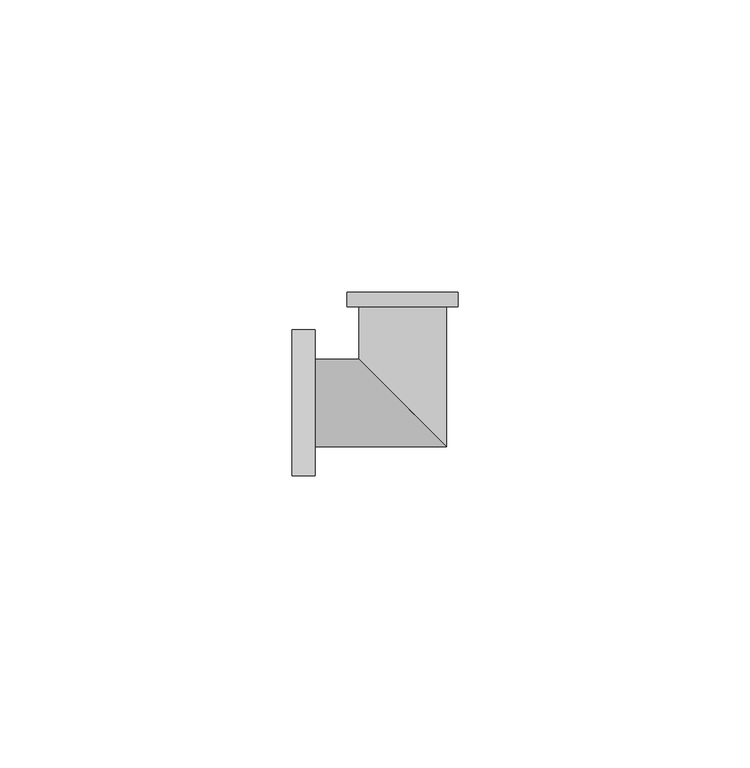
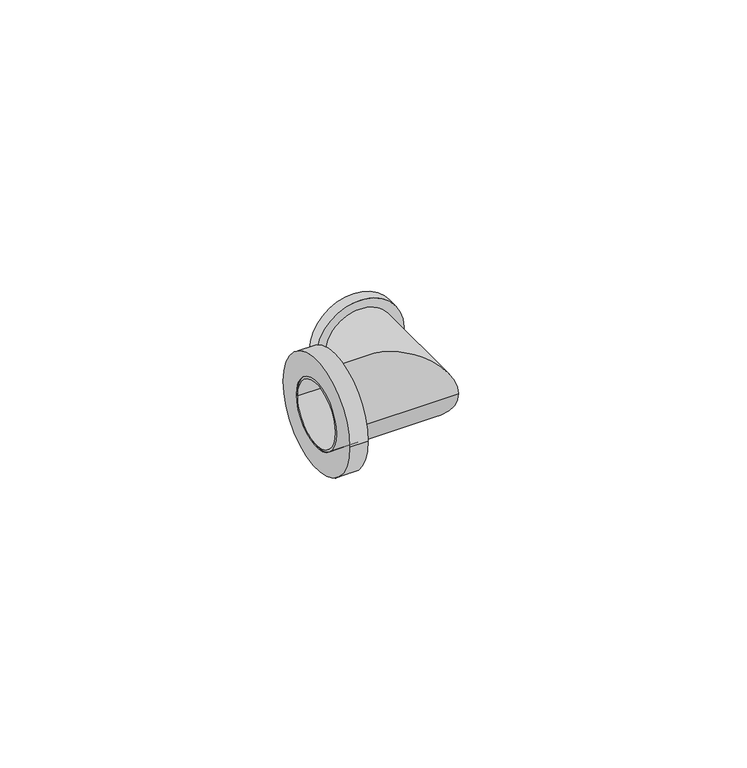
"""IFC4 building model written with IfcOpenShell, lengths in millimetres: pipe fitting geometry, БИР ПЕКС_НПР_Угольник_Резьба_Наружная : Угольник с наружной резьбой."""

from ifc_helpers import new_model, si_unit, point, frame, origin, origin_2d, place, context, project, spatial, polyline, circle_curve, ellipse_curve, trimmed, segment, composite_curve, outline, extrude, source, transform, mapped, element, save
from ifc_brep_helpers import plane_surface, cylinder_surface, revolved_surface, advanced_brep


def pipe_fitting_4c61a92c(model_context):
    return source(origin(), model_context, "Body", "SolidModel", [
        extrude(outline(composite_curve([segment(trimmed(circle_curve(origin_2d(), 12.5), [point((-12.5, 0.0))], [point((12.5, 0.0))], False, "CARTESIAN"), True, "CONTINUOUS"), segment(trimmed(circle_curve(origin_2d(), 12.5), [point((12.5, 0.0))], [point((-12.5, 0.0))], False, "CARTESIAN"), True, "CONTINUOUS")], self_intersect=False), holes=[composite_curve([segment(trimmed(circle_curve(origin_2d(), 7.5), [point((-7.5, 0.0))], [point((7.5, 0.0))], True, "CARTESIAN"), True, "CONTINUOUS"), segment(trimmed(circle_curve(origin_2d(), 7.5), [point((7.5, 0.0))], [point((-7.5, 0.0))], True, "CARTESIAN"), True, "CONTINUOUS")], self_intersect=False)]), frame((-19.0, 0.0, 0.0), z_axis=(1.0, 0.0, 0.0), x_axis=(0.0, 1.0, 0.0)), (0.0, 0.0, 1.0), 4.0),
        advanced_brep(
        [(-19.0, -7.5, 0.0), (-19.0, 7.5, 0.0), (-19.0, -7.0, 0.0), (-19.0, 7.0, 0.0), (7.5, -7.5, 0.0), (-7.5, 7.5, 0.0), (-9.5, 19.0, 0.0), (9.5, 19.0, 0.0), (7.0, 19.0, 0.0), (-7.0, 19.0, 0.0), (7.5, 16.5, 0.0), (-7.5, 16.5, 0.0), (-9.5, 16.5, 0.0), (9.5, 16.5, 0.0), (7.0, -7.0, 0.0), (-7.0, 7.0, 0.0)],
        [
            (0, 1, circle_curve(frame((-19.0, 0.0, 0.0), z_axis=(-1.0, 0.0, 0.0), x_axis=(0.0, 1.0, 0.0)), 7.5)),
            (1, 0, circle_curve(frame((-19.0, 0.0, 0.0), z_axis=(-1.0, 0.0, 0.0), x_axis=(0.0, 1.0, 0.0)), 7.5)),
            (2, 3, circle_curve(frame((-19.0, 0.0, 0.0), z_axis=(1.0, 0.0, 0.0), x_axis=(0.0, 1.0, 0.0)), 7.0)),
            (3, 2, circle_curve(frame((-19.0, 0.0, 0.0), z_axis=(1.0, 0.0, 0.0), x_axis=(0.0, 1.0, 0.0)), 7.0)),
            (0, 4),
            (4, 5, ellipse_curve(frame((0.0, 0.0, 0.0), z_axis=(-0.7071067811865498, -0.7071067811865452, 0.0), x_axis=(-0.7071067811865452, 0.7071067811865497, 0.0)), 10.6066017, 7.5)),
            (5, 1),
            (5, 4, ellipse_curve(frame((0.0, 0.0, 0.0), z_axis=(-0.7071067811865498, -0.7071067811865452, 0.0), x_axis=(-0.7071067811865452, 0.7071067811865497, 0.0)), 10.6066017, 7.5)),
            (6, 7, circle_curve(frame((0.0, 19.0, 0.0), z_axis=(0.0, 1.0, 0.0), x_axis=(1.0, 0.0, 0.0)), 9.5)),
            (7, 6, circle_curve(frame((0.0, 19.0, 0.0), z_axis=(0.0, 1.0, 0.0), x_axis=(1.0, 0.0, 0.0)), 9.5)),
            (8, 9, circle_curve(frame((0.0, 19.0, 0.0), z_axis=(0.0, -1.0, 0.0), x_axis=(-1.0, 0.0, 0.0)), 7.0)),
            (9, 8, circle_curve(frame((0.0, 19.0, 0.0), z_axis=(0.0, -1.0, 0.0), x_axis=(-1.0, 0.0, 0.0)), 7.0)),
            (4, 10),
            (10, 11, circle_curve(frame((0.0, 16.5, 0.0), z_axis=(0.0, -1.0, 0.0), x_axis=(-1.0, 0.0, 0.0)), 7.5)),
            (11, 5),
            (11, 10, circle_curve(frame((0.0, 16.5, 0.0), z_axis=(0.0, -1.0, 0.0), x_axis=(-1.0, 0.0, 0.0)), 7.5)),
            (12, 13, circle_curve(frame((0.0, 16.5, 0.0), z_axis=(0.0, -1.0, 0.0), x_axis=(1.0, 0.0, 0.0)), 9.5)),
            (13, 12, circle_curve(frame((0.0, 16.5, 0.0), z_axis=(0.0, -1.0, 0.0), x_axis=(1.0, 0.0, 0.0)), 9.5)),
            (12, 6),
            (7, 13),
            (2, 14),
            (14, 15, ellipse_curve(frame((0.0, 0.0, 0.0), z_axis=(0.7071067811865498, 0.7071067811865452, 0.0), x_axis=(0.7071067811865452, -0.7071067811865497, 0.0)), 9.8994949, 7.0)),
            (15, 3),
            (15, 14, ellipse_curve(frame((0.0, 0.0, 0.0), z_axis=(0.7071067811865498, 0.7071067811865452, 0.0), x_axis=(0.7071067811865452, -0.7071067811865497, 0.0)), 9.8994949, 7.0)),
            (9, 15),
            (14, 8),
        ],
        [
            plane_surface(frame((-19.0, 0.0, 0.0), z_axis=(-1.0, 0.0, 0.0), x_axis=(0.0, 0.0, 1.0))),
            cylinder_surface(frame((-19.0, 0.0, 0.0), z_axis=(-1.0, 0.0, 0.0), x_axis=(0.0, 1.0, 0.0)), 7.5),
            plane_surface(frame((0.0, 19.0, 0.0), z_axis=(0.0, 1.0, 0.0), x_axis=(0.0, 0.0, 1.0))),
            cylinder_surface(frame((0.0, 0.0, 0.0), z_axis=(0.0, -1.0, 0.0), x_axis=(-1.0, 0.0, 0.0)), 7.5),
            plane_surface(frame((9.5, 16.5, 0.0), z_axis=(0.0, -1.0, 0.0), x_axis=(0.0, 0.0, 1.0))),
            cylinder_surface(frame((0.0, 19.0, 0.0), z_axis=(0.0, -1.0, 0.0), x_axis=(1.0, 0.0, 0.0)), 9.5),
            revolved_surface(polyline([(7.0, 7.0, 0.0), (-19.0, 7.0, 0.0)]), (-19.0, 0.0, 0.0), (1.0, 0.0, 0.0)),
            revolved_surface(polyline([(-7.0, 19.0, 0.0), (-7.0, -7.0, 0.0)]), (0.0, 0.0, 0.0), (0.0, 1.0, 0.0)),
        ],
        [
            (0, [[1, 2], [3, 4]]),
            (1, [[-1, 5, 6, 7]]),
            (1, [[-2, -7, 8, -5]]),
            (2, [[9, 10], [11, 12]]),
            (3, [[-6, 13, 14, 15]]),
            (3, [[-8, -15, 16, -13]]),
            (4, [[17, 18], [-14, -16]]),
            (5, [[-17, 19, -10, 20]]),
            (5, [[-18, -20, -9, -19]]),
            (6, [[-3, 21, 22, 23]]),
            (6, [[-4, -23, 24, -21]]),
            (7, [[-12, 25, -22, 26]]),
            (7, [[-11, -26, -24, -25]]),
        ],
    ),
    ])


if __name__ == "__main__":
    model = new_model("IFC4")
    model_context = context("Model", 3, world=origin())
    ifc_project = project(units=[si_unit("LENGTHUNIT", "METRE", prefix="MILLI")], contexts=[model_context])
    site = spatial("IfcSite", under=ifc_project)
    building = spatial("IfcBuilding", under=site)
    placement = place(None, origin())
    pipe_fitting_shape = pipe_fitting_4c61a92c(model_context)
    element("IfcPipeFitting", 1, ObjectType="БИР ПЕКС_НПР_Угольник_Резьба_Наружная : Угольник с наружной резьбой", at=placement, inside=building, context=model_context, shape_type="MappedRepresentation", body=[
        mapped(pipe_fitting_shape, transform((0.0, 0.0, 0.0), x_axis=(1.0, 0.0, 0.0), y_axis=(0.0, 1.0, 0.0), z_axis=(0.0, 0.0, 1.0))),
    ])
    save(model, "model.ifc")
